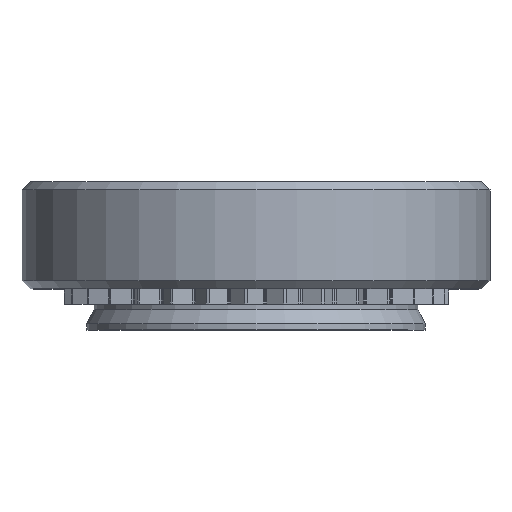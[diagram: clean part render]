
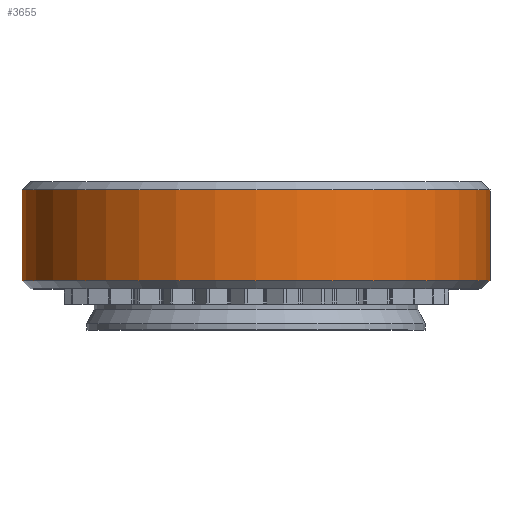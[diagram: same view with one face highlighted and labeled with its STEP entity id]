
A CAD part, top view. The second image highlights one B-rep face of the part: STEP entity #3655.
In plain terms, the highlighted cylindrical face has radius 4.375 mm (diameter 8.75 mm), a full revolution.
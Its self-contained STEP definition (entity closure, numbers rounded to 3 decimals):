
#85=CYLINDRICAL_SURFACE('',#3880,4.375);
#214=FACE_OUTER_BOUND('',#413,.T.);
#413=EDGE_LOOP('',(#2490,#2491,#2492,#2493,#2494,#2495));
#616=LINE('',#5597,#935);
#935=VECTOR('',#4355,4.375);
#1253=CIRCLE('',#3877,4.375);
#1254=CIRCLE('',#3878,4.375);
#1256=CIRCLE('',#3881,4.375);
#1257=CIRCLE('',#3882,4.375);
#1516=VERTEX_POINT('',#5585);
#1517=VERTEX_POINT('',#5586);
#1519=VERTEX_POINT('',#5593);
#1520=VERTEX_POINT('',#5594);
#1903=EDGE_CURVE('',#1516,#1517,#1253,.T.);
#1904=EDGE_CURVE('',#1517,#1516,#1254,.T.);
#1907=EDGE_CURVE('',#1519,#1520,#1256,.T.);
#1908=EDGE_CURVE('',#1520,#1519,#1257,.T.);
#1909=EDGE_CURVE('',#1520,#1517,#616,.T.);
#2490=ORIENTED_EDGE('',*,*,#1907,.F.);
#2491=ORIENTED_EDGE('',*,*,#1908,.F.);
#2492=ORIENTED_EDGE('',*,*,#1909,.T.);
#2493=ORIENTED_EDGE('',*,*,#1903,.F.);
#2494=ORIENTED_EDGE('',*,*,#1904,.F.);
#2495=ORIENTED_EDGE('',*,*,#1909,.F.);
#3655=ADVANCED_FACE('',(#214),#85,.T.);
#3877=AXIS2_PLACEMENT_3D('',#5587,#4342,#4343);
#3878=AXIS2_PLACEMENT_3D('',#5588,#4344,#4345);
#3880=AXIS2_PLACEMENT_3D('',#5592,#4349,#4350);
#3881=AXIS2_PLACEMENT_3D('',#5595,#4351,#4352);
#3882=AXIS2_PLACEMENT_3D('',#5596,#4353,#4354);
#4342=DIRECTION('center_axis',(0.,-1.,0.));
#4343=DIRECTION('ref_axis',(1.,0.,0.));
#4344=DIRECTION('center_axis',(0.,-1.,0.));
#4345=DIRECTION('ref_axis',(1.,0.,0.));
#4349=DIRECTION('center_axis',(0.,1.,0.));
#4350=DIRECTION('ref_axis',(-1.,0.,0.));
#4351=DIRECTION('center_axis',(0.,1.,0.));
#4352=DIRECTION('ref_axis',(1.,0.,0.));
#4353=DIRECTION('center_axis',(0.,1.,0.));
#4354=DIRECTION('ref_axis',(1.,0.,0.));
#4355=DIRECTION('',(0.,-1.,0.));
#5585=CARTESIAN_POINT('',(-4.375,0.92,0.));
#5586=CARTESIAN_POINT('',(4.375,0.92,0.));
#5587=CARTESIAN_POINT('Origin',(0.,0.92,
0.));
#5588=CARTESIAN_POINT('Origin',(0.,0.92,
0.));
#5592=CARTESIAN_POINT('Origin',(0.,1.77,0.));
#5593=CARTESIAN_POINT('',(-4.375,2.62,0.));
#5594=CARTESIAN_POINT('',(4.375,2.62,0.));
#5595=CARTESIAN_POINT('Origin',(0.,2.62,0.));
#5596=CARTESIAN_POINT('Origin',(0.,2.62,0.));
#5597=CARTESIAN_POINT('',(4.375,1.77,0.));
